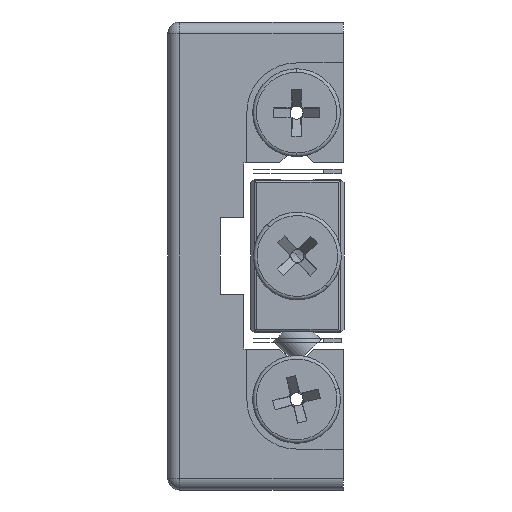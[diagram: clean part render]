
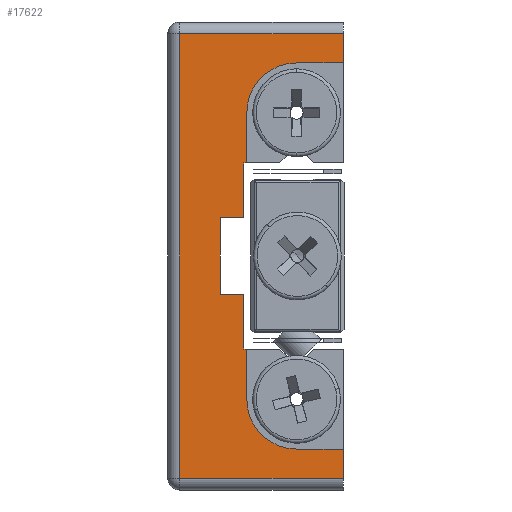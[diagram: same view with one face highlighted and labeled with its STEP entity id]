
A CAD part, left-side view. The second image highlights one B-rep face of the part: STEP entity #17622.
In plain terms, the highlighted planar face has unit normal (-1, 0, 0).
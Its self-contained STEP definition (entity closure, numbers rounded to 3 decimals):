
#6 = DIRECTION ( 'NONE',  ( 0., 0., -1. ) ) ;
#27 = LINE ( 'NONE', #8279, #9216 ) ;
#108 = DIRECTION ( 'NONE',  ( 0., 0., -1. ) ) ;
#228 = CARTESIAN_POINT ( 'NONE',  ( -46.387, 9.7, -3.25 ) ) ;
#316 = ORIENTED_EDGE ( 'NONE', *, *, #6355, .F. ) ;
#359 = VECTOR ( 'NONE', #23434, 1000. ) ;
#550 = CARTESIAN_POINT ( 'NONE',  ( -46.387, -0.8, 19. ) ) ;
#891 = EDGE_CURVE ( 'NONE', #923, #22788, #8809, .T. ) ;
#923 = VERTEX_POINT ( 'NONE', #10958 ) ;
#943 = FACE_OUTER_BOUND ( 'NONE', #5478, .T. ) ;
#1152 = VECTOR ( 'NONE', #23203, 1000. ) ;
#1448 = CARTESIAN_POINT ( 'NONE',  ( -46.387, 14.2, -19. ) ) ;
#1551 = CARTESIAN_POINT ( 'NONE',  ( -46.387, 14.2, -20. ) ) ;
#1610 = DIRECTION ( 'NONE',  ( 0., 0., 1. ) ) ;
#1743 = LINE ( 'NONE', #19344, #2047 ) ;
#1829 = EDGE_CURVE ( 'NONE', #9619, #3995, #19876, .T. ) ;
#2047 = VECTOR ( 'NONE', #19314, 1000. ) ;
#2347 = VECTOR ( 'NONE', #16549, 1000. ) ;
#2631 = CARTESIAN_POINT ( 'NONE',  ( -46.387, 7.7, 3.25 ) ) ;
#2847 = VERTEX_POINT ( 'NONE', #13949 ) ;
#3106 = LINE ( 'NONE', #12645, #23454 ) ;
#3344 = VECTOR ( 'NONE', #1610, 1000. ) ;
#3425 = VECTOR ( 'NONE', #23776, 1000. ) ;
#3684 = VERTEX_POINT ( 'NONE', #19900 ) ;
#3812 = ORIENTED_EDGE ( 'NONE', *, *, #9381, .T. ) ;
#3936 = ORIENTED_EDGE ( 'NONE', *, *, #8519, .F. ) ;
#3995 = VERTEX_POINT ( 'NONE', #10538 ) ;
#4082 = CARTESIAN_POINT ( 'NONE',  ( -46.387, 7.45, -12.25 ) ) ;
#4279 = CARTESIAN_POINT ( 'NONE',  ( -46.387, 13.2, 19. ) ) ;
#4303 = ORIENTED_EDGE ( 'NONE', *, *, #9458, .T. ) ;
#4416 = LINE ( 'NONE', #23364, #359 ) ;
#5315 = VERTEX_POINT ( 'NONE', #10465 ) ;
#5478 = EDGE_LOOP ( 'NONE', ( #11818, #15425, #4303, #17838, #3812, #9827, #21009, #20465, #3936, #11374, #24085, #316, #11368, #17511, #16876, #13253, #23703, #14230 ) ) ;
#5483 = VERTEX_POINT ( 'NONE', #17717 ) ;
#5933 = VECTOR ( 'NONE', #108, 1000. ) ;
#6296 = VECTOR ( 'NONE', #18451, 1000. ) ;
#6353 = CARTESIAN_POINT ( 'NONE',  ( -46.387, 9.7, 3.25 ) ) ;
#6355 = EDGE_CURVE ( 'NONE', #3684, #23638, #21467, .T. ) ;
#7073 = CARTESIAN_POINT ( 'NONE',  ( -46.387, 3.2, 16.5 ) ) ;
#7099 = PLANE ( 'NONE',  #12282 ) ;
#7462 = VERTEX_POINT ( 'NONE', #6353 ) ;
#7876 = EDGE_CURVE ( 'NONE', #21841, #22825, #9725, .T. ) ;
#8122 = AXIS2_PLACEMENT_3D ( 'NONE', #22547, #11106, #6 ) ;
#8170 = VECTOR ( 'NONE', #18367, 1000. ) ;
#8187 = VERTEX_POINT ( 'NONE', #4279 ) ;
#8260 = LINE ( 'NONE', #23340, #12841 ) ;
#8279 = CARTESIAN_POINT ( 'NONE',  ( -46.387, 9.7, 3.25 ) ) ;
#8487 = EDGE_CURVE ( 'NONE', #24262, #22825, #17687, .T. ) ;
#8519 = EDGE_CURVE ( 'NONE', #17030, #5315, #4416, .T. ) ;
#8809 = LINE ( 'NONE', #13845, #3344 ) ;
#9007 = DIRECTION ( 'NONE',  ( 0., 0., -1. ) ) ;
#9169 = CARTESIAN_POINT ( 'NONE',  ( -46.387, -0.8, -20. ) ) ;
#9216 = VECTOR ( 'NONE', #10242, 1000. ) ;
#9271 = LINE ( 'NONE', #9169, #15630 ) ;
#9381 = EDGE_CURVE ( 'NONE', #3995, #21841, #22200, .T. ) ;
#9458 = EDGE_CURVE ( 'NONE', #2847, #9619, #1743, .T. ) ;
#9619 = VERTEX_POINT ( 'NONE', #13774 ) ;
#9725 = LINE ( 'NONE', #4082, #9985 ) ;
#9827 = ORIENTED_EDGE ( 'NONE', *, *, #7876, .T. ) ;
#9985 = VECTOR ( 'NONE', #10933, 1000. ) ;
#10020 = DIRECTION ( 'NONE',  ( 0., 1., 0. ) ) ;
#10126 = DIRECTION ( 'NONE',  ( 0., 0., -1. ) ) ;
#10242 = DIRECTION ( 'NONE',  ( 0., 1., 0. ) ) ;
#10465 = CARTESIAN_POINT ( 'NONE',  ( -46.387, 7.7, -3.25 ) ) ;
#10538 = CARTESIAN_POINT ( 'NONE',  ( -46.387, 3.2, -16.5 ) ) ;
#10933 = DIRECTION ( 'NONE',  ( 0., 0., 1. ) ) ;
#10958 = CARTESIAN_POINT ( 'NONE',  ( -46.387, 7.45, 7.95 ) ) ;
#11106 = DIRECTION ( 'NONE',  ( 1., 0., 0. ) ) ;
#11180 = EDGE_CURVE ( 'NONE', #8187, #5483, #21328, .T. ) ;
#11360 = LINE ( 'NONE', #1448, #6296 ) ;
#11368 = ORIENTED_EDGE ( 'NONE', *, *, #23513, .F. ) ;
#11374 = ORIENTED_EDGE ( 'NONE', *, *, #13179, .F. ) ;
#11528 = CARTESIAN_POINT ( 'NONE',  ( -46.387, 7.45, 12.25 ) ) ;
#11818 = ORIENTED_EDGE ( 'NONE', *, *, #11180, .T. ) ;
#12282 = AXIS2_PLACEMENT_3D ( 'NONE', #1551, #20455, #9007 ) ;
#12388 = DIRECTION ( 'NONE',  ( 0., -1., 0. ) ) ;
#12630 = EDGE_CURVE ( 'NONE', #23137, #16600, #3106, .T. ) ;
#12645 = CARTESIAN_POINT ( 'NONE',  ( -46.387, 3.2, 16.5 ) ) ;
#12841 = VECTOR ( 'NONE', #10020, 1000. ) ;
#13179 = EDGE_CURVE ( 'NONE', #7462, #17030, #18698, .T. ) ;
#13253 = ORIENTED_EDGE ( 'NONE', *, *, #12630, .T. ) ;
#13774 = CARTESIAN_POINT ( 'NONE',  ( -46.387, -0.8, -16.5 ) ) ;
#13845 = CARTESIAN_POINT ( 'NONE',  ( -46.387, 7.45, 12.25 ) ) ;
#13949 = CARTESIAN_POINT ( 'NONE',  ( -46.387, -0.8, -19. ) ) ;
#14230 = ORIENTED_EDGE ( 'NONE', *, *, #22891, .T. ) ;
#14666 = CARTESIAN_POINT ( 'NONE',  ( -46.387, 7.7, -7.95 ) ) ;
#15166 = VECTOR ( 'NONE', #19059, 1000. ) ;
#15425 = ORIENTED_EDGE ( 'NONE', *, *, #21590, .T. ) ;
#15523 = CARTESIAN_POINT ( 'NONE',  ( -46.387, 7.45, -7.95 ) ) ;
#15630 = VECTOR ( 'NONE', #16920, 1000. ) ;
#16388 = VERTEX_POINT ( 'NONE', #550 ) ;
#16549 = DIRECTION ( 'NONE',  ( 0., 0., -1. ) ) ;
#16600 = VERTEX_POINT ( 'NONE', #19858 ) ;
#16675 = CIRCLE ( 'NONE', #8122, 4.25 ) ;
#16862 = CARTESIAN_POINT ( 'NONE',  ( -46.387, 7.7, 3.25 ) ) ;
#16876 = ORIENTED_EDGE ( 'NONE', *, *, #24191, .T. ) ;
#16920 = DIRECTION ( 'NONE',  ( 0., 0., 1. ) ) ;
#17030 = VERTEX_POINT ( 'NONE', #23546 ) ;
#17146 = CARTESIAN_POINT ( 'NONE',  ( -46.387, 7.7, -7.95 ) ) ;
#17431 = LINE ( 'NONE', #14666, #2347 ) ;
#17511 = ORIENTED_EDGE ( 'NONE', *, *, #891, .T. ) ;
#17622 = ADVANCED_FACE ( 'NONE', ( #943 ), #7099, .F. ) ;
#17687 = LINE ( 'NONE', #21897, #1152 ) ;
#17717 = CARTESIAN_POINT ( 'NONE',  ( -46.387, 13.2, -19. ) ) ;
#17838 = ORIENTED_EDGE ( 'NONE', *, *, #1829, .T. ) ;
#18228 = CARTESIAN_POINT ( 'NONE',  ( -46.387, 3.2, -16.5 ) ) ;
#18239 = CARTESIAN_POINT ( 'NONE',  ( -46.387, 3.2, -12.25 ) ) ;
#18263 = DIRECTION ( 'NONE',  ( 1., 0., 0. ) ) ;
#18268 = DIRECTION ( 'NONE',  ( 0., 0., 1. ) ) ;
#18367 = DIRECTION ( 'NONE',  ( 0., 1., 0. ) ) ;
#18448 = LINE ( 'NONE', #21920, #3425 ) ;
#18451 = DIRECTION ( 'NONE',  ( 0., -1., 0. ) ) ;
#18698 = LINE ( 'NONE', #228, #5933 ) ;
#18978 = EDGE_CURVE ( 'NONE', #5315, #24262, #17431, .T. ) ;
#19059 = DIRECTION ( 'NONE',  ( 0., 0., -1. ) ) ;
#19314 = DIRECTION ( 'NONE',  ( 0., 0., 1. ) ) ;
#19344 = CARTESIAN_POINT ( 'NONE',  ( -46.387, -0.8, -20. ) ) ;
#19858 = CARTESIAN_POINT ( 'NONE',  ( -46.387, -0.8, 16.5 ) ) ;
#19876 = LINE ( 'NONE', #18228, #8170 ) ;
#19900 = CARTESIAN_POINT ( 'NONE',  ( -46.387, 7.7, 7.95 ) ) ;
#20455 = DIRECTION ( 'NONE',  ( 1., 0., 0. ) ) ;
#20465 = ORIENTED_EDGE ( 'NONE', *, *, #18978, .F. ) ;
#21009 = ORIENTED_EDGE ( 'NONE', *, *, #8487, .F. ) ;
#21164 = EDGE_CURVE ( 'NONE', #16600, #16388, #9271, .T. ) ;
#21328 = LINE ( 'NONE', #24182, #15166 ) ;
#21467 = LINE ( 'NONE', #2631, #21762 ) ;
#21590 = EDGE_CURVE ( 'NONE', #5483, #2847, #11360, .T. ) ;
#21762 = VECTOR ( 'NONE', #10126, 1000. ) ;
#21841 = VERTEX_POINT ( 'NONE', #22770 ) ;
#21897 = CARTESIAN_POINT ( 'NONE',  ( -46.387, -0.8, -7.95 ) ) ;
#21920 = CARTESIAN_POINT ( 'NONE',  ( -46.387, 7.7, 7.95 ) ) ;
#22029 = EDGE_CURVE ( 'NONE', #23638, #7462, #27, .T. ) ;
#22200 = CIRCLE ( 'NONE', #24112, 4.25 ) ;
#22547 = CARTESIAN_POINT ( 'NONE',  ( -46.387, 3.2, 12.25 ) ) ;
#22770 = CARTESIAN_POINT ( 'NONE',  ( -46.387, 7.45, -12.25 ) ) ;
#22788 = VERTEX_POINT ( 'NONE', #11528 ) ;
#22825 = VERTEX_POINT ( 'NONE', #15523 ) ;
#22891 = EDGE_CURVE ( 'NONE', #16388, #8187, #8260, .T. ) ;
#23137 = VERTEX_POINT ( 'NONE', #7073 ) ;
#23203 = DIRECTION ( 'NONE',  ( 0., -1., 0. ) ) ;
#23340 = CARTESIAN_POINT ( 'NONE',  ( -46.387, 14.2, 19. ) ) ;
#23364 = CARTESIAN_POINT ( 'NONE',  ( -46.387, 7.7, -3.25 ) ) ;
#23434 = DIRECTION ( 'NONE',  ( 0., -1., 0. ) ) ;
#23454 = VECTOR ( 'NONE', #12388, 1000. ) ;
#23513 = EDGE_CURVE ( 'NONE', #923, #3684, #18448, .T. ) ;
#23546 = CARTESIAN_POINT ( 'NONE',  ( -46.387, 9.7, -3.25 ) ) ;
#23638 = VERTEX_POINT ( 'NONE', #16862 ) ;
#23703 = ORIENTED_EDGE ( 'NONE', *, *, #21164, .T. ) ;
#23776 = DIRECTION ( 'NONE',  ( 0., 1., 0. ) ) ;
#24085 = ORIENTED_EDGE ( 'NONE', *, *, #22029, .F. ) ;
#24112 = AXIS2_PLACEMENT_3D ( 'NONE', #18239, #18263, #18268 ) ;
#24182 = CARTESIAN_POINT ( 'NONE',  ( -46.387, 13.2, -20. ) ) ;
#24191 = EDGE_CURVE ( 'NONE', #22788, #23137, #16675, .T. ) ;
#24262 = VERTEX_POINT ( 'NONE', #17146 ) ;
